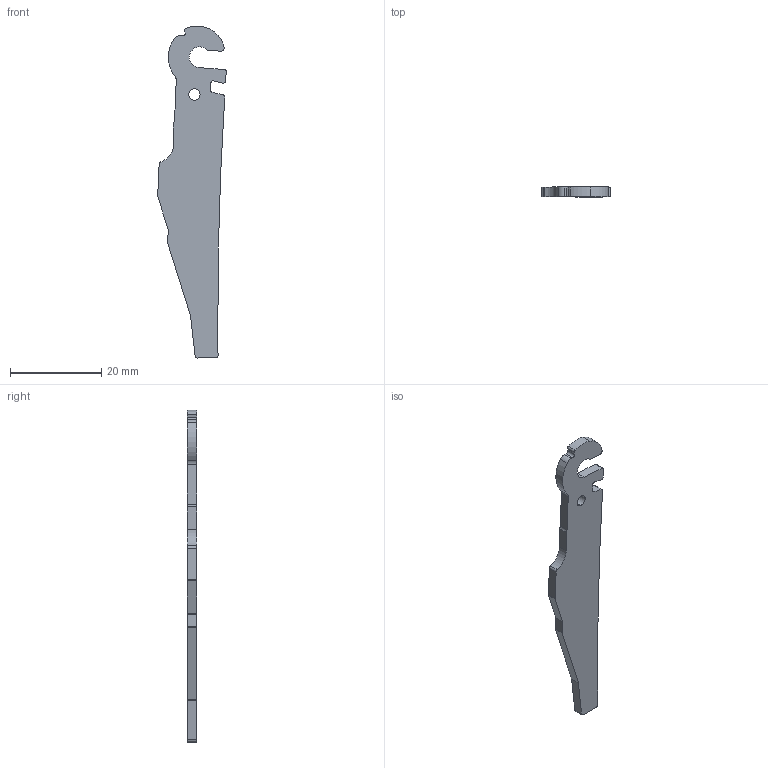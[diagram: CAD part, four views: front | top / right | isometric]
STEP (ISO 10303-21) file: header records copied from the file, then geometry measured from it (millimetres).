
FILE_DESCRIPTION((''),'2;1');
FILE_NAME('R2301_MODEL_1_P','2024-02-28T10:45:28',('Lintion'),(''),'CREO PARAMETRIC BY PTC INC, 2019352','CREO PARAMETRIC BY PTC INC, 2019352','');
FILE_SCHEMA(('CONFIG_CONTROL_DESIGN','SHAPE_APPEARANCE_LAYERS_GROUPS'));
Length unit declared in the file: millimetre
Products named in the file (1): R2301_MODEL_1_P
Bounding box: 15.05 x 2.1 x 72.88 mm (x, y, z)
Volume: 1449.9 mm3; surface area: 1777.2 mm2
Topology: 1 solids, 1 shells, 46 faces, 132 edges, 88 vertices
Faces by surface type: cylinder 29, plane 17
Entity records: 1686 total; most frequent: DIRECTION 282, CARTESIAN_POINT 266, ORIENTED_EDGE 264, EDGE_CURVE 132, AXIS2_PLACEMENT_3D 104, COLOUR_RGB 104, VERTEX_POINT 88, VECTOR 74
